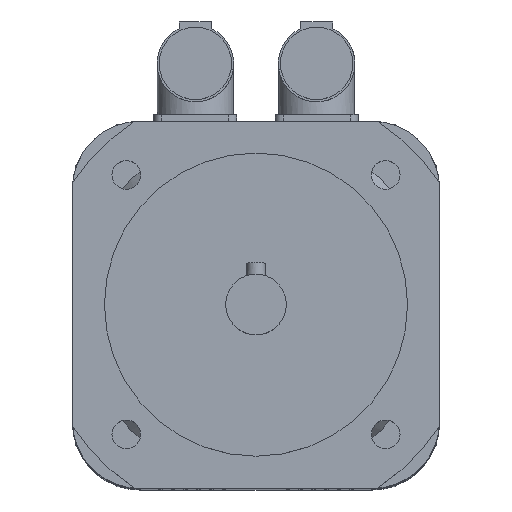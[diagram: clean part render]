
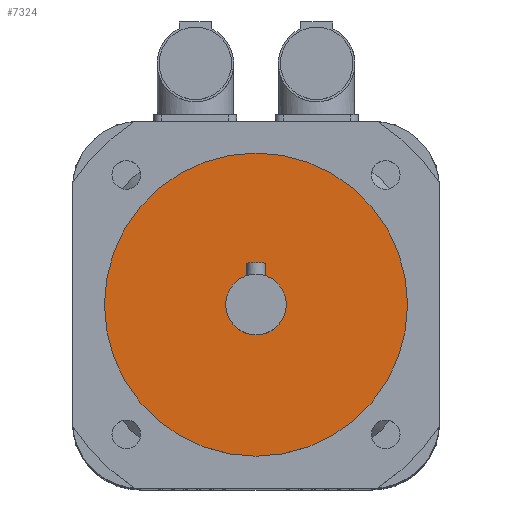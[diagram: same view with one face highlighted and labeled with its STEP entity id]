
A CAD part, top view. The second image highlights one B-rep face of the part: STEP entity #7324.
In plain terms, the highlighted planar face has unit normal (0, 0, 1).
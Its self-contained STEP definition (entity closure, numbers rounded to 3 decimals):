
#60=FACE_BOUND('',#993,.T.);
#151=CIRCLE('',#7810,9.5);
#152=CIRCLE('',#7812,47.5);
#524=FACE_OUTER_BOUND('',#992,.T.);
#992=EDGE_LOOP('',(#5019));
#993=EDGE_LOOP('',(#5020));
#3155=VERTEX_POINT('',#11148);
#3156=VERTEX_POINT('',#11151);
#3882=EDGE_CURVE('',#3155,#3155,#151,.T.);
#3883=EDGE_CURVE('',#3156,#3156,#152,.T.);
#5019=ORIENTED_EDGE('',*,*,#3883,.F.);
#5020=ORIENTED_EDGE('',*,*,#3882,.T.);
#6956=PLANE('',#7811);
#7324=ADVANCED_FACE('',(#524,#60),#6956,.T.);
#7810=AXIS2_PLACEMENT_3D('',#11149,#8756,#8757);
#7811=AXIS2_PLACEMENT_3D('',#11150,#8758,#8759);
#7812=AXIS2_PLACEMENT_3D('',#11152,#8760,#8761);
#8756=DIRECTION('center_axis',(0.,0.,-1.));
#8757=DIRECTION('ref_axis',(1.,0.,0.));
#8758=DIRECTION('center_axis',(0.,0.,1.));
#8759=DIRECTION('ref_axis',(1.,0.,0.));
#8760=DIRECTION('center_axis',(0.,0.,-1.));
#8761=DIRECTION('ref_axis',(1.,0.,0.));
#11148=CARTESIAN_POINT('',(0.,9.5,263.));
#11149=CARTESIAN_POINT('Origin',(0.,0.,263.));
#11150=CARTESIAN_POINT('Origin',(0.,47.5,263.));
#11151=CARTESIAN_POINT('',(0.,47.5,263.));
#11152=CARTESIAN_POINT('Origin',(0.,0.,263.));
